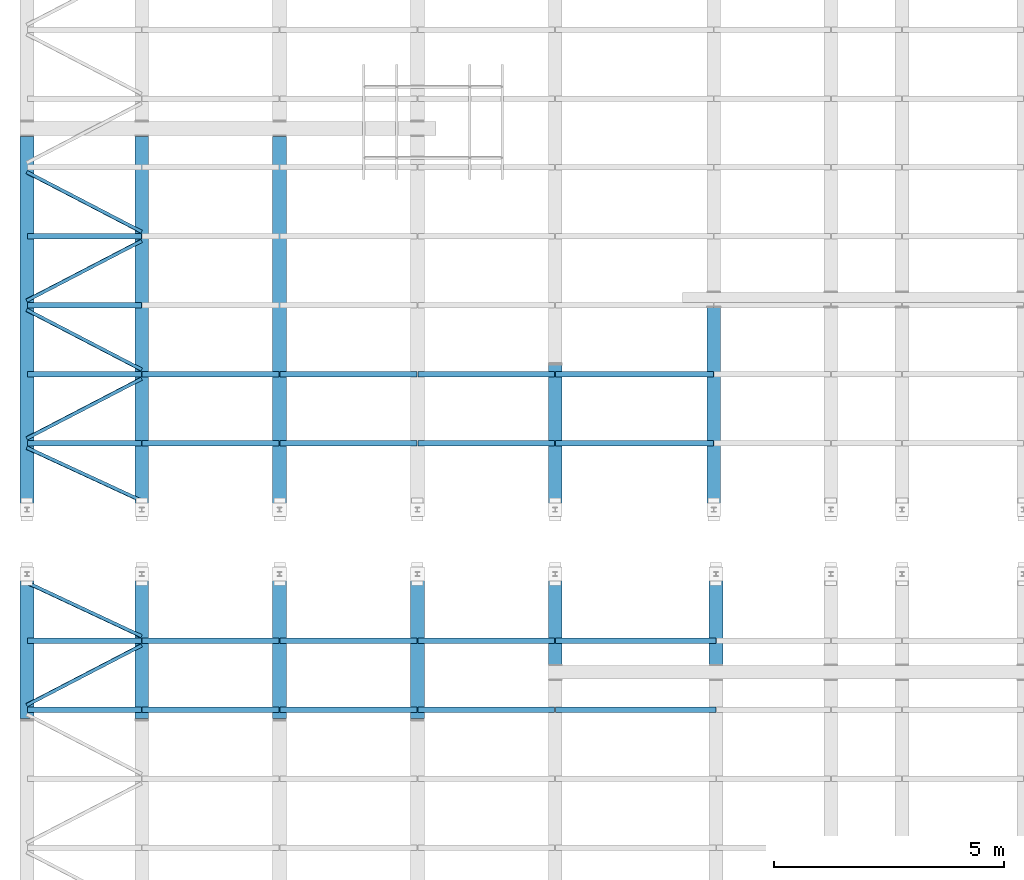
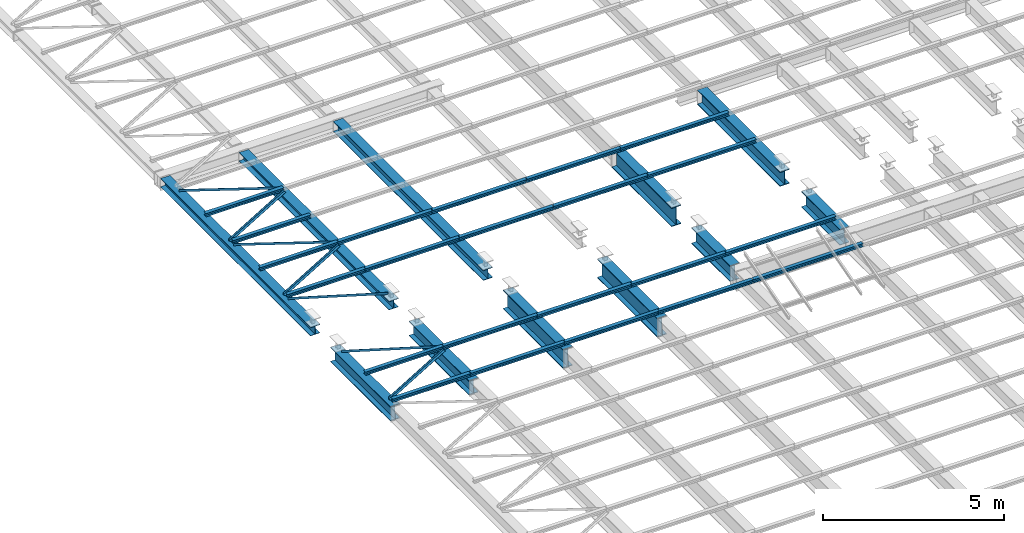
# One storey, part 40 of 139: 40 beams.
"""IFC2X3 building model written with IfcOpenShell, lengths in metres."""

from ifc_helpers import new_model, entity, si_unit, converted_unit, derived_unit, frame, origin, place, context, subcontext, project, spatial, polyline, outline, extrude, material, element, save


model = new_model("IFC2X3")

# Units and contexts
model_context = context("Model", 3, precision=1e-05, world=origin())
body_context = subcontext(model_context, "Body", "Model", "MODEL_VIEW")
ifc_project = project(units=[si_unit("LENGTHUNIT", "METRE"), si_unit("AREAUNIT", "SQUARE_METRE"), si_unit("VOLUMEUNIT", "CUBIC_METRE"), si_unit("MASSUNIT", "GRAM", prefix="KILO"), converted_unit("PLANEANGLEUNIT", "DEGREE", entity("IfcPlaneAngleMeasure", 0.0174532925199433), si_unit("PLANEANGLEUNIT", "RADIAN"), dimensions=[0, 0, 0, 0, 0, 0, 0]), derived_unit("THERMALTRANSMITTANCEUNIT", [(si_unit("POWERUNIT", "WATT"), 1), (si_unit("THERMODYNAMICTEMPERATUREUNIT", "KELVIN"), -1), (si_unit("LENGTHUNIT", "METRE"), -2)]), derived_unit("VOLUMETRICFLOWRATEUNIT", [(si_unit("LENGTHUNIT", "METRE"), 3), (converted_unit("TIMEUNIT", "hour", entity("IfcTimeMeasure", 3600.0), si_unit("TIMEUNIT", "SECOND"), dimensions=[0, 0, 1, 0, 0, 0, 0]), -1), (si_unit("LENGTHUNIT", "METRE"), -1)])], contexts=[model_context])

# Site, building, storey
site_placement = place(None, origin())
site = spatial("IfcSite", under=ifc_project, at=site_placement, Name="TWP_Speiseverteilzentrum SBW VZ II", CompositionType="ELEMENT")
building_placement = place(site_placement, origin())
building = spatial("IfcBuilding", under=site, at=building_placement, Name="Speiseverteilzentrum SBW VZ II", CompositionType="ELEMENT")
storey_placement = place(building_placement, frame((0.0, 0.0, 7.1307)))
storey = spatial("IfcBuildingStorey", under=building, at=storey_placement, Name="Wartung_FFB", CompositionType="ELEMENT", Elevation=7.1307)

# Beams
ifc_material_1 = material(Name="S235")
beam_1_placement = place(storey_placement, frame((10.5500000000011, 39.6248118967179, -0.335), z_axis=(0.0, 0.0, 1.0), x_axis=(-1.0, 0.0, 0.0)))
element("IfcBeam", 1, at=beam_1_placement, inside=storey, material=ifc_material_1, Name="Stahlträger", context=body_context, shape_type="SweptSolid", body=[
    extrude(outline(polyline([(-0.15, 0.145), (-0.15, 0.131), (-0.00424999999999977, 0.131), (-0.00424999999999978, -0.131), (-0.15, -0.131), (-0.15, -0.145), (0.15, -0.145), (0.15, -0.131), (0.00425000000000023, -0.131), (0.00425000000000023, 0.131), (0.15, 0.131), (0.15, 0.145), (-0.15, 0.145)])), frame((0.0, 0.0, 0.0), z_axis=(0.0, 1.0, 0.0), x_axis=(-1.0, 0.0, 0.0)), (0.0, 0.0, 1.0), 8.27481189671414),
])
ifc_material_2 = material(Name="S235")
beam_2_placement = place(storey_placement, frame((16.0500000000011, 39.6248118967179, -0.365), z_axis=(0.0, 0.0, 1.0), x_axis=(-1.0, 0.0, 0.0)))
element("IfcBeam", 2, at=beam_2_placement, inside=storey, material=ifc_material_2, Name="Stahlträger", context=body_context, shape_type="SweptSolid", body=[
    extrude(outline(polyline([(-0.15, 0.175), (-0.15, 0.1575), (-0.00500000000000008, 0.1575), (-0.0050000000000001, -0.1575), (-0.15, -0.1575), (-0.15, -0.175), (0.15, -0.175), (0.15, -0.1575), (0.0049999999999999, -0.1575), (0.00499999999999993, 0.1575), (0.15, 0.1575), (0.15, 0.175), (-0.15, 0.175)])), frame((0.0, 0.0, 0.0), z_axis=(0.0, 1.0, 0.0), x_axis=(-1.0, 0.0, 0.0)), (0.0, 0.0, 1.0), 8.27481189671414),
])
ifc_material_3 = material(Name="S235")
beam_3_placement = place(storey_placement, frame((13.0500000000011, 39.6248118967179, -0.335), z_axis=(0.0, 0.0, 1.0), x_axis=(-1.0, 0.0, 0.0)))
element("IfcBeam", 3, at=beam_3_placement, inside=storey, material=ifc_material_3, Name="Stahlträger", context=body_context, shape_type="SweptSolid", body=[
    extrude(outline(polyline([(-0.15, 0.145), (-0.15, 0.131), (-0.00424999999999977, 0.131), (-0.00424999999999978, -0.131), (-0.15, -0.131), (-0.15, -0.145), (0.15, -0.145), (0.15, -0.131), (0.00425000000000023, -0.131), (0.00425000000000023, 0.131), (0.15, 0.131), (0.15, 0.145), (-0.15, 0.145)])), frame((0.0, 0.0, 0.0), z_axis=(0.0, 1.0, 0.0), x_axis=(-1.0, 0.0, 0.0)), (0.0, 0.0, 1.0), 8.27481189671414),
])
ifc_material_4 = material(Name="S235")
beam_4_placement = place(storey_placement, frame((22.0500000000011, 34.6479257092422, -0.51), z_axis=(0.0, 0.0, 1.0), x_axis=(-1.0, 0.0, 0.0)))
element("IfcBeam", 4, at=beam_4_placement, inside=storey, material=ifc_material_4, Name="Stahlträger", context=body_context, shape_type="SweptSolid", body=[
    extrude(outline(polyline([(-0.15, 0.32), (-0.15, 0.294), (-0.00675000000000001, 0.294), (-0.00675000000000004, -0.294), (-0.15, -0.294), (-0.15, -0.32), (0.15, -0.32), (0.15, -0.294), (0.00674999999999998, -0.294), (0.00675000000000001, 0.294), (0.15, 0.294), (0.15, 0.32), (-0.15, 0.32)])), frame((0.0, 0.0, 0.0), z_axis=(0.0, 1.0, 0.0), x_axis=(-1.0, 0.0, 0.0)), (0.0, 0.0, 1.0), 3.29792570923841),
])
ifc_material_5 = material(Name="S235")
beam_5_placement = place(storey_placement, frame((25.5025522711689, 35.9048478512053, -0.435), z_axis=(0.0, 0.0, 1.0), x_axis=(-1.0, 0.0, 0.0)))
element("IfcBeam", 5, at=beam_5_placement, inside=storey, material=ifc_material_5, Name="Stahlträger", context=body_context, shape_type="SweptSolid", body=[
    extrude(outline(polyline([(-0.15, 0.245), (-0.15, 0.222), (-0.00599999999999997, 0.222), (-0.006, -0.222), (-0.15, -0.222), (-0.15, -0.245), (0.15, -0.245), (0.15, -0.222), (0.00600000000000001, -0.222), (0.00600000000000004, 0.222), (0.15, 0.222), (0.15, 0.245), (-0.15, 0.245)])), frame((0.0, 0.0, 0.0), z_axis=(0.0, 1.0, 0.0), x_axis=(-1.0, 0.0, 0.0)), (0.0, 0.0, 1.0), 4.55484785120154),
])
ifc_material_6 = material(Name="S235")
beam_6_placement = place(storey_placement, frame((10.5500000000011, 30.2500000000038, -0.435), z_axis=(0.0, 0.0, 1.0), x_axis=(-1.0, 0.0, 0.0)))
element("IfcBeam", 6, at=beam_6_placement, inside=storey, material=ifc_material_6, Name="Stahlträger", context=body_context, shape_type="SweptSolid", body=[
    extrude(outline(polyline([(-0.15, 0.245), (-0.15, 0.222), (-0.00599999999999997, 0.222), (-0.006, -0.222), (-0.15, -0.222), (-0.15, -0.245), (0.15, -0.245), (0.15, -0.222), (0.00600000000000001, -0.222), (0.00600000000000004, 0.222), (0.15, 0.222), (0.15, 0.245), (-0.15, 0.245)])), frame((0.0, 0.0, 0.0), z_axis=(0.0, 1.0, 0.0), x_axis=(-1.0, 0.0, 0.0)), (0.0, 0.0, 1.0), 3.29792570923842),
])
ifc_material_7 = material(Name="S235")
beam_7_placement = place(storey_placement, frame((13.0500000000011, 30.2500000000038, -0.435), z_axis=(0.0, 0.0, 1.0), x_axis=(-1.0, 0.0, 0.0)))
element("IfcBeam", 7, at=beam_7_placement, inside=storey, material=ifc_material_7, Name="Stahlträger", context=body_context, shape_type="SweptSolid", body=[
    extrude(outline(polyline([(-0.15, 0.245), (-0.15, 0.222), (-0.00599999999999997, 0.222), (-0.006, -0.222), (-0.15, -0.222), (-0.15, -0.245), (0.15, -0.245), (0.15, -0.222), (0.00600000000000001, -0.222), (0.00600000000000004, 0.222), (0.15, 0.222), (0.15, 0.245), (-0.15, 0.245)])), frame((0.0, 0.0, 0.0), z_axis=(0.0, 1.0, 0.0), x_axis=(-1.0, 0.0, 0.0)), (0.0, 0.0, 1.0), 3.29792570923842),
])
ifc_material_8 = material(Name="S235")
beam_8_placement = place(storey_placement, frame((16.0500000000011, 30.2500000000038, -0.51), z_axis=(0.0, 0.0, 1.0), x_axis=(-1.0, 0.0, 0.0)))
element("IfcBeam", 8, at=beam_8_placement, inside=storey, material=ifc_material_8, Name="Stahlträger", context=body_context, shape_type="SweptSolid", body=[
    extrude(outline(polyline([(-0.15, 0.32), (-0.15, 0.294), (-0.00675000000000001, 0.294), (-0.00675000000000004, -0.294), (-0.15, -0.294), (-0.15, -0.32), (0.15, -0.32), (0.15, -0.294), (0.00674999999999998, -0.294), (0.00675000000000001, 0.294), (0.15, 0.294), (0.15, 0.32), (-0.15, 0.32)])), frame((0.0, 0.0, 0.0), z_axis=(0.0, 1.0, 0.0), x_axis=(-1.0, 0.0, 0.0)), (0.0, 0.0, 1.0), 3.29792570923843),
])
ifc_material_9 = material(Name="S235")
beam_9_placement = place(storey_placement, frame((19.0500000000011, 30.2500000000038, -0.51), z_axis=(0.0, 0.0, 1.0), x_axis=(-1.0, 0.0, 0.0)))
element("IfcBeam", 9, at=beam_9_placement, inside=storey, material=ifc_material_9, Name="Stahlträger", context=body_context, shape_type="SweptSolid", body=[
    extrude(outline(polyline([(-0.15, 0.32), (-0.15, 0.294), (-0.00675000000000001, 0.294), (-0.00675000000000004, -0.294), (-0.15, -0.294), (-0.15, -0.32), (0.15, -0.32), (0.15, -0.294), (0.00674999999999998, -0.294), (0.00675000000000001, 0.294), (0.15, 0.294), (0.15, 0.32), (-0.15, 0.32)])), frame((0.0, 0.0, 0.0), z_axis=(0.0, 1.0, 0.0), x_axis=(-1.0, 0.0, 0.0)), (0.0, 0.0, 1.0), 3.29792570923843),
])
ifc_material_10 = material(Name="S235")
beam_10_placement = place(storey_placement, frame((25.5500000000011, 30.2500000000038, -0.46), z_axis=(0.0, 0.0, 1.0), x_axis=(-1.0, 0.0, 0.0)))
element("IfcBeam", 10, at=beam_10_placement, inside=storey, material=ifc_material_10, Name="Stahlträger", context=body_context, shape_type="SweptSolid", body=[
    extrude(outline(polyline([(-0.15, 0.27), (-0.15, 0.246), (-0.0062499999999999, 0.246), (-0.00624999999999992, -0.246), (-0.15, -0.246), (-0.15, -0.27), (0.15, -0.27), (0.15, -0.246), (0.00625000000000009, -0.246), (0.00625000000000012, 0.246), (0.15, 0.246), (0.15, 0.27), (-0.15, 0.27)])), frame((0.0, 0.0, 0.0), z_axis=(0.0, 1.0, 0.0), x_axis=(-1.0, 0.0, 0.0)), (0.0, 0.0, 1.0), 2.11507130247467),
])
ifc_material_11 = material(Name="S235")
beam_11_placement = place(storey_placement, frame((22.0500000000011, 30.2500000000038, -0.46), z_axis=(0.0, 0.0, 1.0), x_axis=(-1.0, 0.0, 0.0)))
element("IfcBeam", 11, at=beam_11_placement, inside=storey, material=ifc_material_11, Name="Stahlträger", context=body_context, shape_type="SweptSolid", body=[
    extrude(outline(polyline([(-0.15, 0.27), (-0.15, 0.246), (-0.0062499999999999, 0.246), (-0.00624999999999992, -0.246), (-0.15, -0.246), (-0.15, -0.27), (0.15, -0.27), (0.15, -0.246), (0.00625000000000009, -0.246), (0.00625000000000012, 0.246), (0.15, 0.246), (0.15, 0.27), (-0.15, 0.27)])), frame((0.0, 0.0, 0.0), z_axis=(0.0, 1.0, 0.0), x_axis=(-1.0, 0.0, 0.0)), (0.0, 0.0, 1.0), 2.11507130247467),
])
ifc_material_12 = material(Name="S235")
beam_12_placement = place(storey_placement, frame((10.5600000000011, 37.4500000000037, -0.133), z_axis=(0.0, 0.0, 1.0), x_axis=(0.0, -1.0, 0.0)))
element("IfcBeam", 12, at=beam_12_placement, inside=storey, material=ifc_material_12, Name="Nebenträger", context=body_context, shape_type="SweptSolid", body=[
    extrude(outline(polyline([(-0.06, 0.0570000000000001), (-0.06, 0.0490000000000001), (-0.00249999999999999, 0.0490000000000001), (-0.0025, -0.0489999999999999), (-0.06, -0.0489999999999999), (-0.06, -0.0569999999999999), (0.06, -0.0569999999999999), (0.06, -0.0489999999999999), (0.0025, -0.0489999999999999), (0.00250000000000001, 0.0490000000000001), (0.06, 0.0490000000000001), (0.06, 0.0570000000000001), (-0.06, 0.0570000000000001)])), frame((0.0, 0.0, 0.0), z_axis=(0.0, 1.0, 0.0), x_axis=(-1.0, 0.0, 0.0)), (0.0, 0.0, 1.0), 2.48000000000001),
])
ifc_material_13 = material(Name="S235")
beam_13_placement = place(storey_placement, frame((10.5600000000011, 35.9500000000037, -0.133), z_axis=(0.0, 0.0, 1.0), x_axis=(0.0, -1.0, 0.0)))
element("IfcBeam", 13, at=beam_13_placement, inside=storey, material=ifc_material_13, Name="Nebenträger", context=body_context, shape_type="SweptSolid", body=[
    extrude(outline(polyline([(-0.06, 0.0570000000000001), (-0.06, 0.0490000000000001), (-0.00249999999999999, 0.0490000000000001), (-0.0025, -0.0489999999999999), (-0.06, -0.0489999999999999), (-0.06, -0.0569999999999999), (0.06, -0.0569999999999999), (0.06, -0.0489999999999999), (0.0025, -0.0489999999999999), (0.00250000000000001, 0.0490000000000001), (0.06, 0.0490000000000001), (0.06, 0.0570000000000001), (-0.06, 0.0570000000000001)])), frame((0.0, 0.0, 0.0), z_axis=(0.0, 1.0, 0.0), x_axis=(-1.0, 0.0, 0.0)), (0.0, 0.0, 1.0), 2.48000000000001),
])
ifc_material_14 = material(Name="S235")
beam_14_placement = place(storey_placement, frame((13.0600000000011, 34.4500000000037, -0.133), z_axis=(0.0, 0.0, 1.0), x_axis=(0.0, -1.0, 0.0)))
element("IfcBeam", 14, at=beam_14_placement, inside=storey, material=ifc_material_14, Name="Nebenträger", context=body_context, shape_type="SweptSolid", body=[
    extrude(outline(polyline([(-0.06, 0.0570000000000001), (-0.06, 0.0490000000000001), (-0.00249999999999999, 0.0490000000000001), (-0.0025, -0.0489999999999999), (-0.06, -0.0489999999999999), (-0.06, -0.0569999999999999), (0.06, -0.0569999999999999), (0.06, -0.0489999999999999), (0.0025, -0.0489999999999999), (0.00250000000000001, 0.0490000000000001), (0.06, 0.0490000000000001), (0.06, 0.0570000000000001), (-0.06, 0.0570000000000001)])), frame((0.0, 0.0, 0.0), z_axis=(0.0, 1.0, 0.0), x_axis=(-1.0, 0.0, 0.0)), (0.0, 0.0, 1.0), 2.98),
])
ifc_material_15 = material(Name="S235")
beam_15_placement = place(storey_placement, frame((16.0600000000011, 34.4500000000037, -0.133), z_axis=(0.0, 0.0, 1.0), x_axis=(0.0, -1.0, 0.0)))
element("IfcBeam", 15, at=beam_15_placement, inside=storey, material=ifc_material_15, Name="Nebenträger", context=body_context, shape_type="SweptSolid", body=[
    extrude(outline(polyline([(-0.06, 0.0570000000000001), (-0.06, 0.0490000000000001), (-0.00249999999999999, 0.0490000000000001), (-0.0025, -0.0489999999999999), (-0.06, -0.0489999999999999), (-0.06, -0.0569999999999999), (0.06, -0.0569999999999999), (0.06, -0.0489999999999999), (0.0025, -0.0489999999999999), (0.00250000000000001, 0.0490000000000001), (0.06, 0.0490000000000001), (0.06, 0.0570000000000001), (-0.06, 0.0570000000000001)])), frame((0.0, 0.0, 0.0), z_axis=(0.0, 1.0, 0.0), x_axis=(-1.0, 0.0, 0.0)), (0.0, 0.0, 1.0), 2.98),
])
ifc_material_16 = material(Name="S235")
beam_16_placement = place(storey_placement, frame((19.0600000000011, 34.4500000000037, -0.133), z_axis=(0.0, 0.0, 1.0), x_axis=(0.0, -1.0, 0.0)))
element("IfcBeam", 16, at=beam_16_placement, inside=storey, material=ifc_material_16, Name="Nebenträger", context=body_context, shape_type="SweptSolid", body=[
    extrude(outline(polyline([(-0.06, 0.0570000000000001), (-0.06, 0.0490000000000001), (-0.00249999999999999, 0.0490000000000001), (-0.0025, -0.0489999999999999), (-0.06, -0.0489999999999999), (-0.06, -0.0569999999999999), (0.06, -0.0569999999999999), (0.06, -0.0489999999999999), (0.0025, -0.0489999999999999), (0.00250000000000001, 0.0490000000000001), (0.06, 0.0490000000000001), (0.06, 0.0570000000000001), (-0.06, 0.0570000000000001)])), frame((0.0, 0.0, 0.0), z_axis=(0.0, 1.0, 0.0), x_axis=(-1.0, 0.0, 0.0)), (0.0, 0.0, 1.0), 2.98),
])
ifc_material_17 = material(Name="S235")
beam_17_placement = place(storey_placement, frame((10.5600000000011, 34.4500000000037, -0.133), z_axis=(0.0, 0.0, 1.0), x_axis=(0.0, -1.0, 0.0)))
element("IfcBeam", 17, at=beam_17_placement, inside=storey, material=ifc_material_17, Name="Nebenträger", context=body_context, shape_type="SweptSolid", body=[
    extrude(outline(polyline([(-0.06, 0.0570000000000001), (-0.06, 0.0490000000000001), (-0.00249999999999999, 0.0490000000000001), (-0.0025, -0.0489999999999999), (-0.06, -0.0489999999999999), (-0.06, -0.0569999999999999), (0.06, -0.0569999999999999), (0.06, -0.0489999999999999), (0.0025, -0.0489999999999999), (0.00250000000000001, 0.0490000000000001), (0.06, 0.0490000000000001), (0.06, 0.0570000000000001), (-0.06, 0.0570000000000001)])), frame((0.0, 0.0, 0.0), z_axis=(0.0, 1.0, 0.0), x_axis=(-1.0, 0.0, 0.0)), (0.0, 0.0, 1.0), 2.48000000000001),
])
ifc_material_18 = material(Name="S235")
beam_18_placement = place(storey_placement, frame((13.0600000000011, 32.9500000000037, -0.133), z_axis=(0.0, 0.0, 1.0), x_axis=(0.0, -1.0, 0.0)))
element("IfcBeam", 18, at=beam_18_placement, inside=storey, material=ifc_material_18, Name="Nebenträger", context=body_context, shape_type="SweptSolid", body=[
    extrude(outline(polyline([(-0.06, 0.0570000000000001), (-0.06, 0.0490000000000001), (-0.00249999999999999, 0.0490000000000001), (-0.0025, -0.0489999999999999), (-0.06, -0.0489999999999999), (-0.06, -0.0569999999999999), (0.06, -0.0569999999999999), (0.06, -0.0489999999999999), (0.0025, -0.0489999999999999), (0.00250000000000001, 0.0490000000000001), (0.06, 0.0490000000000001), (0.06, 0.0570000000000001), (-0.06, 0.0570000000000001)])), frame((0.0, 0.0, 0.0), z_axis=(0.0, 1.0, 0.0), x_axis=(-1.0, 0.0, 0.0)), (0.0, 0.0, 1.0), 2.98),
])
ifc_material_19 = material(Name="S235")
beam_19_placement = place(storey_placement, frame((16.0600000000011, 32.9500000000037, -0.133), z_axis=(0.0, 0.0, 1.0), x_axis=(0.0, -1.0, 0.0)))
element("IfcBeam", 19, at=beam_19_placement, inside=storey, material=ifc_material_19, Name="Nebenträger", context=body_context, shape_type="SweptSolid", body=[
    extrude(outline(polyline([(-0.06, 0.0570000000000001), (-0.06, 0.0490000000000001), (-0.00249999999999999, 0.0490000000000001), (-0.0025, -0.0489999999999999), (-0.06, -0.0489999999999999), (-0.06, -0.0569999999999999), (0.06, -0.0569999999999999), (0.06, -0.0489999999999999), (0.0025, -0.0489999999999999), (0.00250000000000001, 0.0490000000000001), (0.06, 0.0490000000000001), (0.06, 0.0570000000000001), (-0.06, 0.0570000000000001)])), frame((0.0, 0.0, 0.0), z_axis=(0.0, 1.0, 0.0), x_axis=(-1.0, 0.0, 0.0)), (0.0, 0.0, 1.0), 2.98),
])
ifc_material_20 = material(Name="S235")
beam_20_placement = place(storey_placement, frame((19.0600000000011, 32.9500000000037, -0.133), z_axis=(0.0, 0.0, 1.0), x_axis=(0.0, -1.0, 0.0)))
element("IfcBeam", 20, at=beam_20_placement, inside=storey, material=ifc_material_20, Name="Nebenträger", context=body_context, shape_type="SweptSolid", body=[
    extrude(outline(polyline([(-0.06, 0.0570000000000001), (-0.06, 0.0490000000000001), (-0.00249999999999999, 0.0490000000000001), (-0.0025, -0.0489999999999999), (-0.06, -0.0489999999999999), (-0.06, -0.0569999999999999), (0.06, -0.0569999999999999), (0.06, -0.0489999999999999), (0.0025, -0.0489999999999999), (0.00250000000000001, 0.0490000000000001), (0.06, 0.0490000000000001), (0.06, 0.0570000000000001), (-0.06, 0.0570000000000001)])), frame((0.0, 0.0, 0.0), z_axis=(0.0, 1.0, 0.0), x_axis=(-1.0, 0.0, 0.0)), (0.0, 0.0, 1.0), 2.98),
])
ifc_material_21 = material(Name="S235")
beam_21_placement = place(storey_placement, frame((10.5600000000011, 32.9500000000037, -0.133), z_axis=(0.0, 0.0, 1.0), x_axis=(0.0, -1.0, 0.0)))
element("IfcBeam", 21, at=beam_21_placement, inside=storey, material=ifc_material_21, Name="Nebenträger", context=body_context, shape_type="SweptSolid", body=[
    extrude(outline(polyline([(-0.06, 0.0570000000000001), (-0.06, 0.0490000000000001), (-0.00249999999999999, 0.0490000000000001), (-0.0025, -0.0489999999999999), (-0.06, -0.0489999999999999), (-0.06, -0.0569999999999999), (0.06, -0.0569999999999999), (0.06, -0.0489999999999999), (0.0025, -0.0489999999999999), (0.00250000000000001, 0.0490000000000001), (0.06, 0.0490000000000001), (0.06, 0.0570000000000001), (-0.06, 0.0570000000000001)])), frame((0.0, 0.0, 0.0), z_axis=(0.0, 1.0, 0.0), x_axis=(-1.0, 0.0, 0.0)), (0.0, 0.0, 1.0), 2.48000000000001),
])
ifc_material_22 = material(Name="S235")
beam_22_placement = place(storey_placement, frame((13.0600000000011, 28.6450742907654, -0.133), z_axis=(0.0, 0.0, 1.0), x_axis=(0.0, -1.0, 0.0)))
element("IfcBeam", 22, at=beam_22_placement, inside=storey, material=ifc_material_22, Name="Nebenträger", context=body_context, shape_type="SweptSolid", body=[
    extrude(outline(polyline([(-0.06, 0.0570000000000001), (-0.06, 0.0490000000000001), (-0.00249999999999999, 0.0490000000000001), (-0.0025, -0.0489999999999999), (-0.06, -0.0489999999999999), (-0.06, -0.0569999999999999), (0.06, -0.0569999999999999), (0.06, -0.0489999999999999), (0.0025, -0.0489999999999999), (0.00250000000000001, 0.0490000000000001), (0.06, 0.0490000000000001), (0.06, 0.0570000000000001), (-0.06, 0.0570000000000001)])), frame((0.0, 0.0, 0.0), z_axis=(0.0, 1.0, 0.0), x_axis=(-1.0, 0.0, 0.0)), (0.0, 0.0, 1.0), 2.98),
])
ifc_material_23 = material(Name="S235")
beam_23_placement = place(storey_placement, frame((16.0600000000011, 28.6450742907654, -0.133), z_axis=(0.0, 0.0, 1.0), x_axis=(0.0, -1.0, 0.0)))
element("IfcBeam", 23, at=beam_23_placement, inside=storey, material=ifc_material_23, Name="Nebenträger", context=body_context, shape_type="SweptSolid", body=[
    extrude(outline(polyline([(-0.06, 0.0570000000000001), (-0.06, 0.0490000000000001), (-0.00249999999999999, 0.0490000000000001), (-0.0025, -0.0489999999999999), (-0.06, -0.0489999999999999), (-0.06, -0.0569999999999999), (0.06, -0.0569999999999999), (0.06, -0.0489999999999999), (0.0025, -0.0489999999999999), (0.00250000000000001, 0.0490000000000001), (0.06, 0.0490000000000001), (0.06, 0.0570000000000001), (-0.06, 0.0570000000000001)])), frame((0.0, 0.0, 0.0), z_axis=(0.0, 1.0, 0.0), x_axis=(-1.0, 0.0, 0.0)), (0.0, 0.0, 1.0), 2.98),
])
ifc_material_24 = material(Name="S235")
beam_24_placement = place(storey_placement, frame((19.0600000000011, 28.6450742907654, -0.133), z_axis=(0.0, 0.0, 1.0), x_axis=(0.0, -1.0, 0.0)))
element("IfcBeam", 24, at=beam_24_placement, inside=storey, material=ifc_material_24, Name="Nebenträger", context=body_context, shape_type="SweptSolid", body=[
    extrude(outline(polyline([(-0.06, 0.0570000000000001), (-0.06, 0.0490000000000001), (-0.00249999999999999, 0.0490000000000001), (-0.0025, -0.0489999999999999), (-0.06, -0.0489999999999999), (-0.06, -0.0569999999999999), (0.06, -0.0569999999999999), (0.06, -0.0489999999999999), (0.0025, -0.0489999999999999), (0.00250000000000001, 0.0490000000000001), (0.06, 0.0490000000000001), (0.06, 0.0570000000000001), (-0.06, 0.0570000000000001)])), frame((0.0, 0.0, 0.0), z_axis=(0.0, 1.0, 0.0), x_axis=(-1.0, 0.0, 0.0)), (0.0, 0.0, 1.0), 2.98),
])
ifc_material_25 = material(Name="S235")
beam_25_placement = place(storey_placement, frame((10.5600000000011, 28.6450742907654, -0.133), z_axis=(0.0, 0.0, 1.0), x_axis=(0.0, -1.0, 0.0)))
element("IfcBeam", 25, at=beam_25_placement, inside=storey, material=ifc_material_25, Name="Nebenträger", context=body_context, shape_type="SweptSolid", body=[
    extrude(outline(polyline([(-0.06, 0.0570000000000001), (-0.06, 0.0490000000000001), (-0.00249999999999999, 0.0490000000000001), (-0.0025, -0.0489999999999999), (-0.06, -0.0489999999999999), (-0.06, -0.0569999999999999), (0.06, -0.0569999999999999), (0.06, -0.0489999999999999), (0.0025, -0.0489999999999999), (0.00250000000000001, 0.0490000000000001), (0.06, 0.0490000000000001), (0.06, 0.0570000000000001), (-0.06, 0.0570000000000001)])), frame((0.0, 0.0, 0.0), z_axis=(0.0, 1.0, 0.0), x_axis=(-1.0, 0.0, 0.0)), (0.0, 0.0, 1.0), 2.48000000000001),
])
ifc_material_26 = material(Name="S235")
beam_26_placement = place(storey_placement, frame((13.0600000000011, 27.1450742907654, -0.133), z_axis=(0.0, 0.0, 1.0), x_axis=(0.0, -1.0, 0.0)))
element("IfcBeam", 26, at=beam_26_placement, inside=storey, material=ifc_material_26, Name="Nebenträger", context=body_context, shape_type="SweptSolid", body=[
    extrude(outline(polyline([(-0.06, 0.0570000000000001), (-0.06, 0.0490000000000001), (-0.00249999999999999, 0.0490000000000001), (-0.0025, -0.0489999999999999), (-0.06, -0.0489999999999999), (-0.06, -0.0569999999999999), (0.06, -0.0569999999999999), (0.06, -0.0489999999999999), (0.0025, -0.0489999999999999), (0.00250000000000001, 0.0490000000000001), (0.06, 0.0490000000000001), (0.06, 0.0570000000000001), (-0.06, 0.0570000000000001)])), frame((0.0, 0.0, 0.0), z_axis=(0.0, 1.0, 0.0), x_axis=(-1.0, 0.0, 0.0)), (0.0, 0.0, 1.0), 2.98),
])
ifc_material_27 = material(Name="S235")
beam_27_placement = place(storey_placement, frame((16.0600000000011, 27.1450742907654, -0.133), z_axis=(0.0, 0.0, 1.0), x_axis=(0.0, -1.0, 0.0)))
element("IfcBeam", 27, at=beam_27_placement, inside=storey, material=ifc_material_27, Name="Nebenträger", context=body_context, shape_type="SweptSolid", body=[
    extrude(outline(polyline([(-0.06, 0.0570000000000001), (-0.06, 0.0490000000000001), (-0.00249999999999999, 0.0490000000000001), (-0.0025, -0.0489999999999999), (-0.06, -0.0489999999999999), (-0.06, -0.0569999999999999), (0.06, -0.0569999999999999), (0.06, -0.0489999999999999), (0.0025, -0.0489999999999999), (0.00250000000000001, 0.0490000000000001), (0.06, 0.0490000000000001), (0.06, 0.0570000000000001), (-0.06, 0.0570000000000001)])), frame((0.0, 0.0, 0.0), z_axis=(0.0, 1.0, 0.0), x_axis=(-1.0, 0.0, 0.0)), (0.0, 0.0, 1.0), 2.98),
])
ifc_material_28 = material(Name="S235")
beam_28_placement = place(storey_placement, frame((19.0600000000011, 27.1450742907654, -0.133), z_axis=(0.0, 0.0, 1.0), x_axis=(0.0, -1.0, 0.0)))
element("IfcBeam", 28, at=beam_28_placement, inside=storey, material=ifc_material_28, Name="Nebenträger", context=body_context, shape_type="SweptSolid", body=[
    extrude(outline(polyline([(-0.06, 0.0570000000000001), (-0.06, 0.0490000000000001), (-0.00249999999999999, 0.0490000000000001), (-0.0025, -0.0489999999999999), (-0.06, -0.0489999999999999), (-0.06, -0.0569999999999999), (0.06, -0.0569999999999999), (0.06, -0.0489999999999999), (0.0025, -0.0489999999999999), (0.00250000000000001, 0.0490000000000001), (0.06, 0.0490000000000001), (0.06, 0.0570000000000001), (-0.06, 0.0570000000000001)])), frame((0.0, 0.0, 0.0), z_axis=(0.0, 1.0, 0.0), x_axis=(-1.0, 0.0, 0.0)), (0.0, 0.0, 1.0), 2.98),
])
ifc_material_29 = material(Name="S235")
beam_29_placement = place(storey_placement, frame((10.5600000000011, 27.1450742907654, -0.133), z_axis=(0.0, 0.0, 1.0), x_axis=(0.0, -1.0, 0.0)))
element("IfcBeam", 29, at=beam_29_placement, inside=storey, material=ifc_material_29, Name="Nebenträger", context=body_context, shape_type="SweptSolid", body=[
    extrude(outline(polyline([(-0.06, 0.0570000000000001), (-0.06, 0.0490000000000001), (-0.00249999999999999, 0.0490000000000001), (-0.0025, -0.0489999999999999), (-0.06, -0.0489999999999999), (-0.06, -0.0569999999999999), (0.06, -0.0569999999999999), (0.06, -0.0489999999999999), (0.0025, -0.0489999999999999), (0.00250000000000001, 0.0490000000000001), (0.06, 0.0490000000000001), (0.06, 0.0570000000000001), (-0.06, 0.0570000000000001)])), frame((0.0, 0.0, 0.0), z_axis=(0.0, 1.0, 0.0), x_axis=(-1.0, 0.0, 0.0)), (0.0, 0.0, 1.0), 2.48000000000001),
])
ifc_material_30 = material(Name="S235")
beam_30_placement = place(storey_placement, frame((22.0600000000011, 28.6450742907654, -0.133), z_axis=(0.0, 0.0, 1.0), x_axis=(0.0, -1.0, 0.0)))
element("IfcBeam", 30, at=beam_30_placement, inside=storey, material=ifc_material_30, Name="Nebenträger", context=body_context, shape_type="SweptSolid", body=[
    extrude(outline(polyline([(-0.06, 0.0570000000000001), (-0.06, 0.0490000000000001), (-0.00249999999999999, 0.0490000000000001), (-0.0025, -0.0489999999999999), (-0.06, -0.0489999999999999), (-0.06, -0.0569999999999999), (0.06, -0.0569999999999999), (0.06, -0.0489999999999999), (0.0025, -0.0489999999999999), (0.00250000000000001, 0.0490000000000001), (0.06, 0.0490000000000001), (0.06, 0.0570000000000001), (-0.06, 0.0570000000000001)])), frame((0.0, 0.0, 0.0), z_axis=(0.0, 1.0, 0.0), x_axis=(-1.0, 0.0, 0.0)), (0.0, 0.0, 1.0), 3.48625),
])
ifc_material_31 = material(Name="S235")
beam_31_placement = place(storey_placement, frame((22.0600000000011, 27.1450742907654, -0.133), z_axis=(0.0, 0.0, 1.0), x_axis=(0.0, -1.0, 0.0)))
element("IfcBeam", 31, at=beam_31_placement, inside=storey, material=ifc_material_31, Name="Nebenträger", context=body_context, shape_type="SweptSolid", body=[
    extrude(outline(polyline([(-0.06, 0.0570000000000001), (-0.06, 0.0490000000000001), (-0.00249999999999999, 0.0490000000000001), (-0.0025, -0.0489999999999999), (-0.06, -0.0489999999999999), (-0.06, -0.0569999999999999), (0.06, -0.0569999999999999), (0.06, -0.0489999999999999), (0.0025, -0.0489999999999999), (0.00250000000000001, 0.0490000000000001), (0.06, 0.0490000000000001), (0.06, 0.0570000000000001), (-0.06, 0.0570000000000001)])), frame((0.0, 0.0, 0.0), z_axis=(0.0, 1.0, 0.0), x_axis=(-1.0, 0.0, 0.0)), (0.0, 0.0, 1.0), 3.48625),
])
ifc_material_32 = material(Name="S235")
beam_32_placement = place(storey_placement, frame((22.0600000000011, 34.4500000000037, -0.133), z_axis=(0.0, 0.0, 1.0), x_axis=(0.0, -1.0, 0.0)))
element("IfcBeam", 32, at=beam_32_placement, inside=storey, material=ifc_material_32, Name="Nebenträger", context=body_context, shape_type="SweptSolid", body=[
    extrude(outline(polyline([(-0.06, 0.0570000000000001), (-0.06, 0.0490000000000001), (-0.00249999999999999, 0.0490000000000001), (-0.0025, -0.0489999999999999), (-0.06, -0.0489999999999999), (-0.06, -0.0569999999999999), (0.06, -0.0569999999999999), (0.06, -0.0489999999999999), (0.0025, -0.0489999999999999), (0.00250000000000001, 0.0490000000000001), (0.06, 0.0490000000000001), (0.06, 0.0570000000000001), (-0.06, 0.0570000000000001)])), frame((0.0, 0.0, 0.0), z_axis=(0.0, 1.0, 0.0), x_axis=(-1.0, 0.0, 0.0)), (0.0, 0.0, 1.0), 3.43255227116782),
])
ifc_material_33 = material(Name="S235")
beam_33_placement = place(storey_placement, frame((22.0600000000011, 32.9500000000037, -0.133), z_axis=(0.0, 0.0, 1.0), x_axis=(0.0, -1.0, 0.0)))
element("IfcBeam", 33, at=beam_33_placement, inside=storey, material=ifc_material_33, Name="Nebenträger", context=body_context, shape_type="SweptSolid", body=[
    extrude(outline(polyline([(-0.06, 0.0570000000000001), (-0.06, 0.0490000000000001), (-0.00249999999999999, 0.0490000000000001), (-0.0025, -0.0489999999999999), (-0.06, -0.0489999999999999), (-0.06, -0.0569999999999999), (0.06, -0.0569999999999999), (0.06, -0.0489999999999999), (0.0025, -0.0489999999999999), (0.00250000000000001, 0.0490000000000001), (0.06, 0.0490000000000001), (0.06, 0.0570000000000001), (-0.06, 0.0570000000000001)])), frame((0.0, 0.0, 0.0), z_axis=(0.0, 1.0, 0.0), x_axis=(-1.0, 0.0, 0.0)), (0.0, 0.0, 1.0), 3.43255227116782),
])
ifc_material_34 = material(Name="S235")
beam_34_placement = place(storey_placement, frame((10.5365784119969, 38.8331815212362, -0.167052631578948), z_axis=(0.0, 0.0, 1.0), x_axis=(-0.4612662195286, -0.887261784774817, 0.0)))
element("IfcBeam", 34, at=beam_34_placement, inside=storey, material=ifc_material_34, Name="Kreuzverband", context=body_context, shape_type="SweptSolid", body=[
    extrude(outline(polyline([(0.0570526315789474, -0.0229473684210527), (0.0570526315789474, -0.0149473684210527), (-0.0149473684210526, -0.0149473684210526), (-0.0149473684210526, 0.0570526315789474), (-0.0229473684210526, 0.0570526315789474), (-0.0229473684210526, -0.0229473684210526), (0.0570526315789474, -0.0229473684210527)])), frame((0.0, 0.0, 0.0), z_axis=(0.0, 1.00000000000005, 0.0), x_axis=(-1.0, 0.0, 0.0)), (0.0, 0.0, 1.0), 2.82000000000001),
])
ifc_material_35 = material(Name="S235")
beam_35_placement = place(storey_placement, frame((10.5365784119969, 36.0668184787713, -0.167052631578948), z_axis=(0.0, 0.0, 1.0), x_axis=(0.4612662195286, -0.887261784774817, 0.0)))
element("IfcBeam", 35, at=beam_35_placement, inside=storey, material=ifc_material_35, Name="Kreuzverband", context=body_context, shape_type="SweptSolid", body=[
    extrude(outline(polyline([(0.0229473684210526, -0.0229473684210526), (0.0229473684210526, 0.0570526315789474), (0.0149473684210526, 0.0570526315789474), (0.0149473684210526, -0.0149473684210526), (-0.0570526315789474, -0.0149473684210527), (-0.0570526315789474, -0.0229473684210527), (0.0229473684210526, -0.0229473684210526)])), frame((0.0, 0.0, 0.0), z_axis=(0.0, 1.00000000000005, 0.0), x_axis=(-1.0, 0.0, 0.0)), (0.0, 0.0, 1.0), 2.82000000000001),
])
ifc_material_36 = material(Name="S235")
beam_36_placement = place(storey_placement, frame((10.5365784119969, 35.8331815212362, -0.167052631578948), z_axis=(0.0, 0.0, 1.0), x_axis=(-0.4612662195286, -0.887261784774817, 0.0)))
element("IfcBeam", 36, at=beam_36_placement, inside=storey, material=ifc_material_36, Name="Kreuzverband", context=body_context, shape_type="SweptSolid", body=[
    extrude(outline(polyline([(0.0570526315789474, -0.0229473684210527), (0.0570526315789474, -0.0149473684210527), (-0.0149473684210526, -0.0149473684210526), (-0.0149473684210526, 0.0570526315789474), (-0.0229473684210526, 0.0570526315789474), (-0.0229473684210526, -0.0229473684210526), (0.0570526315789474, -0.0229473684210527)])), frame((0.0, 0.0, 0.0), z_axis=(0.0, 1.00000000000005, 0.0), x_axis=(-1.0, 0.0, 0.0)), (0.0, 0.0, 1.0), 2.82000000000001),
])
ifc_material_37 = material(Name="S235")
beam_37_placement = place(storey_placement, frame((10.5365784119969, 27.2618927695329, -0.167052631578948), z_axis=(0.0, 0.0, 1.0), x_axis=(0.4612662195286, -0.887261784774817, 0.0)))
element("IfcBeam", 37, at=beam_37_placement, inside=storey, material=ifc_material_37, Name="Kreuzverband", context=body_context, shape_type="SweptSolid", body=[
    extrude(outline(polyline([(0.0229473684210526, -0.0229473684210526), (0.0229473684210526, 0.0570526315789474), (0.0149473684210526, 0.0570526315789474), (0.0149473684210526, -0.0149473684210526), (-0.0570526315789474, -0.0149473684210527), (-0.0570526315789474, -0.0229473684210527), (0.0229473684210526, -0.0229473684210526)])), frame((0.0, 0.0, 0.0), z_axis=(0.0, 1.00000000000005, 0.0), x_axis=(-1.0, 0.0, 0.0)), (0.0, 0.0, 1.0), 2.82000000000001),
])
ifc_material_38 = material(Name="S235")
beam_38_placement = place(storey_placement, frame((10.5365784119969, 33.0668184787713, -0.167052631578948), z_axis=(0.0, 0.0, 1.0), x_axis=(0.4612662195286, -0.887261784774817, 0.0)))
element("IfcBeam", 38, at=beam_38_placement, inside=storey, material=ifc_material_38, Name="Kreuzverband", context=body_context, shape_type="SweptSolid", body=[
    extrude(outline(polyline([(0.0229473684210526, -0.0229473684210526), (0.0229473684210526, 0.0570526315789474), (0.0149473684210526, 0.0570526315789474), (0.0149473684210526, -0.0149473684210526), (-0.0570526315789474, -0.0149473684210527), (-0.0570526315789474, -0.0229473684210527), (0.0229473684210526, -0.0229473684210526)])), frame((0.0, 0.0, 0.0), z_axis=(0.0, 1.00000000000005, 0.0), x_axis=(-1.0, 0.0, 0.0)), (0.0, 0.0, 1.0), 2.82000000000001),
])
ifc_material_39 = material(Name="S235")
beam_39_placement = place(storey_placement, frame((10.53895749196, 32.8320140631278, -0.167052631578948), z_axis=(0.0, 0.0, 1.0), x_axis=(-0.419566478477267, -0.907724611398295, 0.0)))
element("IfcBeam", 39, at=beam_39_placement, inside=storey, material=ifc_material_39, Name="Kreuzverband", context=body_context, shape_type="SweptSolid", body=[
    extrude(outline(polyline([(0.0570526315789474, -0.0229473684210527), (0.0570526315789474, -0.0149473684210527), (-0.0149473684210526, -0.0149473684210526), (-0.0149473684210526, 0.0570526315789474), (-0.0229473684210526, 0.0570526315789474), (-0.0229473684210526, -0.0229473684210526), (0.0570526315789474, -0.0229473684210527)])), frame((0.0, 0.0, 0.0), z_axis=(0.0, 1.00000000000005, 0.0), x_axis=(-1.0, 0.0, 0.0)), (0.0, 0.0, 1.0), 2.76000000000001),
])
ifc_material_40 = material(Name="S235")
beam_40_placement = place(storey_placement, frame((10.5471566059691, 29.8937529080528, -0.167052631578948), z_axis=(0.0, 0.0, 1.0), x_axis=(-0.423943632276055, -0.905688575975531, 0.0)))
element("IfcBeam", 40, at=beam_40_placement, inside=storey, material=ifc_material_40, Name="Kreuzverband", context=body_context, shape_type="SweptSolid", body=[
    extrude(outline(polyline([(0.0570526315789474, -0.0229473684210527), (0.0570526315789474, -0.0149473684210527), (-0.0149473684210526, -0.0149473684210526), (-0.0149473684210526, 0.0570526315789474), (-0.0229473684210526, 0.0570526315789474), (-0.0229473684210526, -0.0229473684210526), (0.0570526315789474, -0.0229473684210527)])), frame((0.0, 0.0, 0.0), z_axis=(0.0, 1.00000000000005, 0.0), x_axis=(-1.0, 0.0, 0.0)), (0.0, 0.0, 1.0), 2.75000000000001),
])

save(model, "model.ifc")
